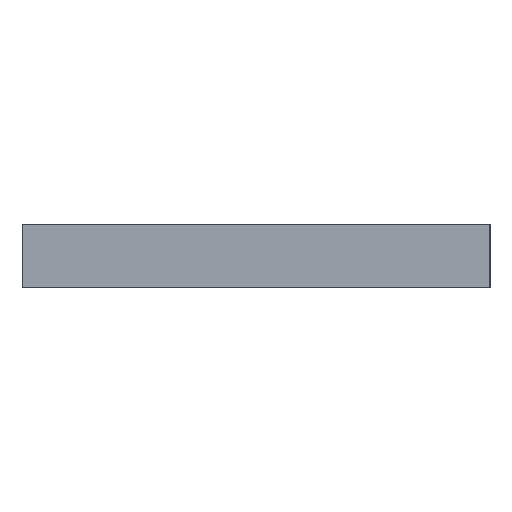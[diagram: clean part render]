
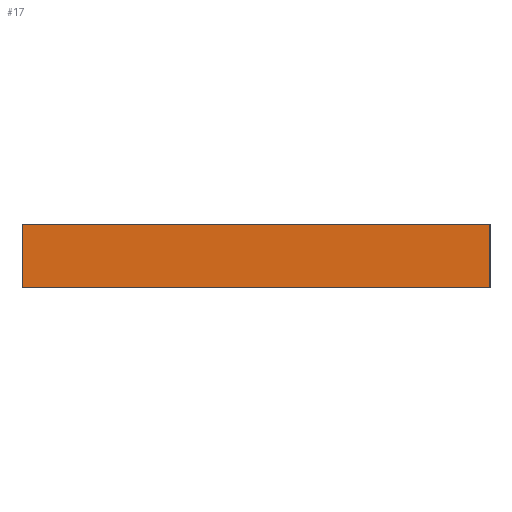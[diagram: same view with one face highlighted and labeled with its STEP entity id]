
A CAD part, left-side view. The second image highlights one B-rep face of the part: STEP entity #17.
In plain terms, the highlighted planar face has unit normal (-1, 0, 0).
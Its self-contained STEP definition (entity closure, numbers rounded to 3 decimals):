
#17 = ADVANCED_FACE('',(#18),#32,.F.);
#18 = FACE_BOUND('',#19,.F.);
#19 = EDGE_LOOP('',(#20,#55,#83,#111));
#20 = ORIENTED_EDGE('',*,*,#21,.F.);
#21 = EDGE_CURVE('',#22,#24,#26,.T.);
#22 = VERTEX_POINT('',#23);
#23 = CARTESIAN_POINT('',(-20.,-11.,0.));
#24 = VERTEX_POINT('',#25);
#25 = CARTESIAN_POINT('',(-20.,-11.,3.));
#26 = SURFACE_CURVE('',#27,(#31,#43),.PCURVE_S1.);
#27 = LINE('',#28,#29);
#28 = CARTESIAN_POINT('',(-20.,-11.,0.));
#29 = VECTOR('',#30,1.);
#30 = DIRECTION('',(0.,0.,1.));
#31 = PCURVE('',#32,#37);
#32 = PLANE('',#33);
#33 = AXIS2_PLACEMENT_3D('',#34,#35,#36);
#34 = CARTESIAN_POINT('',(-20.,-11.,0.));
#35 = DIRECTION('',(1.,0.,0.));
#36 = DIRECTION('',(0.,0.,1.));
#37 = DEFINITIONAL_REPRESENTATION('',(#38),#42);
#38 = LINE('',#39,#40);
#39 = CARTESIAN_POINT('',(0.,0.));
#40 = VECTOR('',#41,1.);
#41 = DIRECTION('',(1.,0.));
#42 = ( GEOMETRIC_REPRESENTATION_CONTEXT(2) 
PARAMETRIC_REPRESENTATION_CONTEXT() REPRESENTATION_CONTEXT('2D SPACE',''
  ) );
#43 = PCURVE('',#44,#49);
#44 = PLANE('',#45);
#45 = AXIS2_PLACEMENT_3D('',#46,#47,#48);
#46 = CARTESIAN_POINT('',(-20.,-11.,0.));
#47 = DIRECTION('',(0.,1.,0.));
#48 = DIRECTION('',(0.,0.,1.));
#49 = DEFINITIONAL_REPRESENTATION('',(#50),#54);
#50 = LINE('',#51,#52);
#51 = CARTESIAN_POINT('',(0.,0.));
#52 = VECTOR('',#53,1.);
#53 = DIRECTION('',(1.,0.));
#54 = ( GEOMETRIC_REPRESENTATION_CONTEXT(2) 
PARAMETRIC_REPRESENTATION_CONTEXT() REPRESENTATION_CONTEXT('2D SPACE',''
  ) );
#55 = ORIENTED_EDGE('',*,*,#56,.T.);
#56 = EDGE_CURVE('',#22,#57,#59,.T.);
#57 = VERTEX_POINT('',#58);
#58 = CARTESIAN_POINT('',(-20.,11.,0.));
#59 = SURFACE_CURVE('',#60,(#64,#71),.PCURVE_S1.);
#60 = LINE('',#61,#62);
#61 = CARTESIAN_POINT('',(-20.,-11.,0.));
#62 = VECTOR('',#63,1.);
#63 = DIRECTION('',(0.,1.,0.));
#64 = PCURVE('',#32,#65);
#65 = DEFINITIONAL_REPRESENTATION('',(#66),#70);
#66 = LINE('',#67,#68);
#67 = CARTESIAN_POINT('',(0.,0.));
#68 = VECTOR('',#69,1.);
#69 = DIRECTION('',(0.,-1.));
#70 = ( GEOMETRIC_REPRESENTATION_CONTEXT(2) 
PARAMETRIC_REPRESENTATION_CONTEXT() REPRESENTATION_CONTEXT('2D SPACE',''
  ) );
#71 = PCURVE('',#72,#77);
#72 = PLANE('',#73);
#73 = AXIS2_PLACEMENT_3D('',#74,#75,#76);
#74 = CARTESIAN_POINT('',(-20.,-11.,0.));
#75 = DIRECTION('',(0.,0.,1.));
#76 = DIRECTION('',(1.,0.,0.));
#77 = DEFINITIONAL_REPRESENTATION('',(#78),#82);
#78 = LINE('',#79,#80);
#79 = CARTESIAN_POINT('',(0.,0.));
#80 = VECTOR('',#81,1.);
#81 = DIRECTION('',(0.,1.));
#82 = ( GEOMETRIC_REPRESENTATION_CONTEXT(2) 
PARAMETRIC_REPRESENTATION_CONTEXT() REPRESENTATION_CONTEXT('2D SPACE',''
  ) );
#83 = ORIENTED_EDGE('',*,*,#84,.T.);
#84 = EDGE_CURVE('',#57,#85,#87,.T.);
#85 = VERTEX_POINT('',#86);
#86 = CARTESIAN_POINT('',(-20.,11.,3.));
#87 = SURFACE_CURVE('',#88,(#92,#99),.PCURVE_S1.);
#88 = LINE('',#89,#90);
#89 = CARTESIAN_POINT('',(-20.,11.,0.));
#90 = VECTOR('',#91,1.);
#91 = DIRECTION('',(0.,0.,1.));
#92 = PCURVE('',#32,#93);
#93 = DEFINITIONAL_REPRESENTATION('',(#94),#98);
#94 = LINE('',#95,#96);
#95 = CARTESIAN_POINT('',(0.,-22.));
#96 = VECTOR('',#97,1.);
#97 = DIRECTION('',(1.,0.));
#98 = ( GEOMETRIC_REPRESENTATION_CONTEXT(2) 
PARAMETRIC_REPRESENTATION_CONTEXT() REPRESENTATION_CONTEXT('2D SPACE',''
  ) );
#99 = PCURVE('',#100,#105);
#100 = PLANE('',#101);
#101 = AXIS2_PLACEMENT_3D('',#102,#103,#104);
#102 = CARTESIAN_POINT('',(-20.,11.,0.));
#103 = DIRECTION('',(0.,1.,0.));
#104 = DIRECTION('',(0.,0.,1.));
#105 = DEFINITIONAL_REPRESENTATION('',(#106),#110);
#106 = LINE('',#107,#108);
#107 = CARTESIAN_POINT('',(0.,0.));
#108 = VECTOR('',#109,1.);
#109 = DIRECTION('',(1.,0.));
#110 = ( GEOMETRIC_REPRESENTATION_CONTEXT(2) 
PARAMETRIC_REPRESENTATION_CONTEXT() REPRESENTATION_CONTEXT('2D SPACE',''
  ) );
#111 = ORIENTED_EDGE('',*,*,#112,.F.);
#112 = EDGE_CURVE('',#24,#85,#113,.T.);
#113 = SURFACE_CURVE('',#114,(#118,#125),.PCURVE_S1.);
#114 = LINE('',#115,#116);
#115 = CARTESIAN_POINT('',(-20.,-11.,3.));
#116 = VECTOR('',#117,1.);
#117 = DIRECTION('',(0.,1.,0.));
#118 = PCURVE('',#32,#119);
#119 = DEFINITIONAL_REPRESENTATION('',(#120),#124);
#120 = LINE('',#121,#122);
#121 = CARTESIAN_POINT('',(3.,0.));
#122 = VECTOR('',#123,1.);
#123 = DIRECTION('',(0.,-1.));
#124 = ( GEOMETRIC_REPRESENTATION_CONTEXT(2) 
PARAMETRIC_REPRESENTATION_CONTEXT() REPRESENTATION_CONTEXT('2D SPACE',''
  ) );
#125 = PCURVE('',#126,#131);
#126 = PLANE('',#127);
#127 = AXIS2_PLACEMENT_3D('',#128,#129,#130);
#128 = CARTESIAN_POINT('',(-20.,-11.,3.));
#129 = DIRECTION('',(0.,0.,1.));
#130 = DIRECTION('',(1.,0.,0.));
#131 = DEFINITIONAL_REPRESENTATION('',(#132),#136);
#132 = LINE('',#133,#134);
#133 = CARTESIAN_POINT('',(0.,0.));
#134 = VECTOR('',#135,1.);
#135 = DIRECTION('',(0.,1.));
#136 = ( GEOMETRIC_REPRESENTATION_CONTEXT(2) 
PARAMETRIC_REPRESENTATION_CONTEXT() REPRESENTATION_CONTEXT('2D SPACE',''
  ) );
